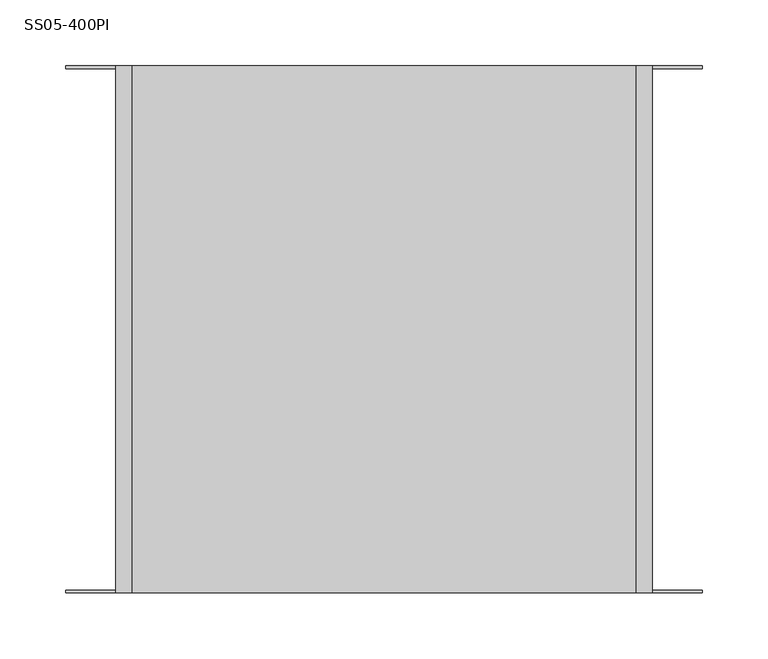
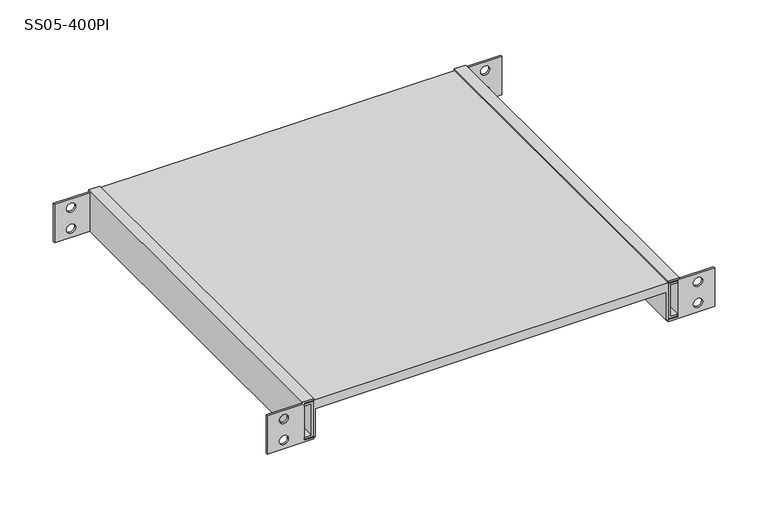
"""IFC4 building model written with IfcOpenShell, lengths in millimetres: proxy geometry, Полки выдвижные : SS05-400PI."""

from ifc_helpers import new_model, si_unit, frame, origin, place, context, project, spatial, polyline, circle_curve, outline, extrude, source, transform, mapped, element, save
from ifc_brep_helpers import plane_surface, revolved_surface, advanced_brep


def ss05_400pi_edb87cb5(model_context):
    return source(origin(), model_context, "Body", "SolidModel", [
        extrude(outline(polyline([(44.0, 191.5), (44.0, -191.5), (2.0, -191.5), (2.0, -189.4739095), (34.0, -189.4739095), (34.0, 189.4778277), (2.0, 189.4778277), (2.0, 191.5), (44.0, 191.5)])), frame((0.0, -200.0, 0.0), z_axis=(0.0, 1.0, 0.0), x_axis=(0.0, 0.0, 1.0)), (0.0, 0.0, 1.0), 400.0),
        extrude(outline(polyline([(2.9820525, -191.8921581), (43.0432121, -191.8921581), (43.0432121, -201.5), (41.0432121, -201.5), (41.0432121, -193.8921581), (4.9820525, -193.8921581), (4.9820525, -201.5), (2.9820525, -201.5), (2.9820525, -191.8921581)])), frame((0.0, -200.0, 0.0), z_axis=(0.0, 1.0, 0.0), x_axis=(0.0, 0.0, 1.0)), (0.0, 0.0, 1.0), 400.0),
        extrude(outline(polyline([(2.9820525, 191.8921581), (2.9820525, 201.5), (4.9820525, 201.5), (4.9820525, 193.8921581), (41.0432121, 193.8921581), (41.0432121, 201.5), (43.0432121, 201.5), (43.0432121, 191.8921581), (2.9820525, 191.8921581)])), frame((0.0, -200.0, 0.0), z_axis=(0.0, 1.0, 0.0), x_axis=(0.0, 0.0, 1.0)), (0.0, 0.0, 1.0), 400.0),
        advanced_brep(
        [(-241.5, 198.0, 44.0), (-203.5, 198.0, 44.0), (-203.5, 200.0, 44.0), (-241.5, 200.0, 44.0), (-203.5, -198.0, 44.0), (-241.5, -198.0, 44.0), (-241.5, -200.0, 44.0), (-203.5, -200.0, 44.0), (-241.5, 198.0, 0.0), (-241.5, 200.0, 0.0), (-191.5, 200.0, 0.0), (-191.5, -200.0, 0.0), (-241.5, -200.0, 0.0), (-241.5, -198.0, 0.0), (-203.5, -198.0, 0.0), (-203.5, 198.0, 0.0), (-218.6086696, 198.0, 34.0), (-228.6086696, 198.0, 34.0), (-218.6086696, 198.0, 10.0), (-228.6086696, 198.0, 10.0), (-203.5, 200.0, 46.0), (-191.5, 200.0, 46.0), (-191.5, 200.0, 44.0), (-201.5, 200.0, 44.0), (-201.5, 200.0, 2.0), (-191.5, 200.0, 2.0), (-228.6086696, 200.0, 34.0), (-218.6086696, 200.0, 34.0), (-228.6086696, 200.0, 10.0), (-218.6086696, 200.0, 10.0), (-228.6086696, -198.0, 34.0), (-218.6086696, -198.0, 34.0), (-228.6086696, -198.0, 10.0), (-218.6086696, -198.0, 10.0), (-191.5, -200.0, 2.0), (-201.5, -200.0, 2.0), (-201.5, -200.0, 44.0), (-191.5, -200.0, 44.0), (-191.5, -200.0, 46.0), (-203.5, -200.0, 46.0), (-218.6086696, -200.0, 34.0), (-228.6086696, -200.0, 34.0), (-218.6086696, -200.0, 10.0), (-228.6086696, -200.0, 10.0)],
        [
            (0, 1),
            (1, 2),
            (2, 3),
            (3, 0),
            (4, 5),
            (5, 6),
            (6, 7),
            (7, 4),
            (8, 9),
            (9, 10),
            (10, 11),
            (11, 12),
            (12, 13),
            (13, 14),
            (14, 15),
            (15, 8),
            (0, 8),
            (15, 1),
            (16, 17, circle_curve(frame((-223.6086696, 198.0, 34.0), z_axis=(0.0, 1.0, 0.0), x_axis=(1.0, 0.0, 0.0)), 5.0)),
            (17, 16, circle_curve(frame((-223.6086696, 198.0, 34.0), z_axis=(0.0, 1.0, 0.0), x_axis=(1.0, 0.0, 0.0)), 5.0)),
            (18, 19, circle_curve(frame((-223.6086696, 198.0, 10.0), z_axis=(0.0, 1.0, 0.0), x_axis=(1.0, 0.0, 0.0)), 5.0)),
            (19, 18, circle_curve(frame((-223.6086696, 198.0, 10.0), z_axis=(0.0, 1.0, 0.0), x_axis=(1.0, 0.0, 0.0)), 5.0)),
            (2, 20),
            (20, 21),
            (21, 22),
            (22, 23),
            (23, 24),
            (24, 25),
            (25, 10),
            (9, 3),
            (26, 27, circle_curve(frame((-223.6086696, 200.0, 34.0), z_axis=(0.0, -1.0, 0.0), x_axis=(1.0, 0.0, 0.0)), 5.0)),
            (27, 26, circle_curve(frame((-223.6086696, 200.0, 34.0), z_axis=(0.0, -1.0, 0.0), x_axis=(1.0, 0.0, 0.0)), 5.0)),
            (28, 29, circle_curve(frame((-223.6086696, 200.0, 10.0), z_axis=(0.0, -1.0, 0.0), x_axis=(1.0, 0.0, 0.0)), 5.0)),
            (29, 28, circle_curve(frame((-223.6086696, 200.0, 10.0), z_axis=(0.0, -1.0, 0.0), x_axis=(1.0, 0.0, 0.0)), 5.0)),
            (4, 14),
            (13, 5),
            (30, 31, circle_curve(frame((-223.6086696, -198.0, 34.0), z_axis=(0.0, -1.0, 0.0), x_axis=(1.0, 0.0, 0.0)), 5.0)),
            (31, 30, circle_curve(frame((-223.6086696, -198.0, 34.0), z_axis=(0.0, -1.0, 0.0), x_axis=(1.0, 0.0, 0.0)), 5.0)),
            (32, 33, circle_curve(frame((-223.6086696, -198.0, 10.0), z_axis=(0.0, -1.0, 0.0), x_axis=(1.0, 0.0, 0.0)), 5.0)),
            (33, 32, circle_curve(frame((-223.6086696, -198.0, 10.0), z_axis=(0.0, -1.0, 0.0), x_axis=(1.0, 0.0, 0.0)), 5.0)),
            (12, 6),
            (11, 34),
            (34, 35),
            (35, 36),
            (36, 37),
            (37, 38),
            (38, 39),
            (39, 7),
            (40, 41, circle_curve(frame((-223.6086696, -200.0, 34.0), z_axis=(0.0, 1.0, 0.0), x_axis=(1.0, 0.0, 0.0)), 5.0)),
            (41, 40, circle_curve(frame((-223.6086696, -200.0, 34.0), z_axis=(0.0, 1.0, 0.0), x_axis=(1.0, 0.0, 0.0)), 5.0)),
            (42, 43, circle_curve(frame((-223.6086696, -200.0, 10.0), z_axis=(0.0, 1.0, 0.0), x_axis=(1.0, 0.0, 0.0)), 5.0)),
            (43, 42, circle_curve(frame((-223.6086696, -200.0, 10.0), z_axis=(0.0, 1.0, 0.0), x_axis=(1.0, 0.0, 0.0)), 5.0)),
            (37, 22),
            (21, 38),
            (20, 39),
            (25, 34),
            (24, 35),
            (23, 36),
            (26, 17),
            (16, 27),
            (30, 41),
            (40, 31),
            (28, 19),
            (18, 29),
            (32, 43),
            (42, 33),
        ],
        [
            plane_surface(frame((-203.5, 198.0, 44.0), z_axis=(0.0, 0.0, 1.0), x_axis=(1.0, 0.0, 0.0))),
            plane_surface(frame((-203.5, 198.0, 0.0), z_axis=(0.0, 0.0, -1.0), x_axis=(-1.0, 0.0, 0.0))),
            plane_surface(frame((-241.5, 198.0, 44.0), z_axis=(0.0, -1.0, 0.0), x_axis=(0.0, 0.0, -1.0))),
            plane_surface(frame((-203.5, 200.0, 44.0), z_axis=(0.0, 1.0, 0.0), x_axis=(0.0, 0.0, -1.0))),
            plane_surface(frame((-241.5, 200.0, 44.0), z_axis=(-1.0, 0.0, 0.0), x_axis=(0.0, 0.0, -1.0))),
            plane_surface(frame((-203.5, -198.0, 44.0), z_axis=(0.0, 1.0, 0.0), x_axis=(0.0, 0.0, -1.0))),
            plane_surface(frame((-241.5, -198.0, 44.0), z_axis=(-1.0, 0.0, 0.0), x_axis=(0.0, 0.0, -1.0))),
            plane_surface(frame((-241.5, -200.0, 44.0), z_axis=(0.0, -1.0, 0.0), x_axis=(0.0, 0.0, -1.0))),
            plane_surface(frame((-191.5, -200.0, 44.0), z_axis=(1.0, 0.0, 0.0), x_axis=(0.0, 1.0, 0.0))),
            plane_surface(frame((-191.5, -200.0, 46.0), z_axis=(0.0, 0.0, 1.0), x_axis=(0.0, 1.0, 0.0))),
            plane_surface(frame((-203.5, -200.0, 46.0), z_axis=(-1.0, 0.0, 0.0), x_axis=(0.0, 1.0, 0.0))),
            plane_surface(frame((-191.5, -200.0, 0.0), z_axis=(1.0, 0.0, 0.0), x_axis=(0.0, 1.0, 0.0))),
            plane_surface(frame((-191.5, -200.0, 2.0), z_axis=(0.0, 0.0, 1.0), x_axis=(0.0, 1.0, 0.0))),
            plane_surface(frame((-201.5, -200.0, 2.0), z_axis=(1.0, 0.0, 0.0), x_axis=(0.0, 1.0, 0.0))),
            plane_surface(frame((-201.5, -200.0, 44.0), z_axis=(0.0, 0.0, -1.0), x_axis=(0.0, 1.0, 0.0))),
            revolved_surface(polyline([(-218.6086696, 198.0, 34.0), (-218.6086696, 200.0, 34.0)]), (-223.6086696, 200.0, 34.0), (0.0, -1.0, 0.0)),
            revolved_surface(polyline([(-218.6086696, -200.0, 34.0), (-218.6086696, -198.0, 34.0)]), (-223.6086696, 200.0, 34.0), (0.0, -1.0, 0.0)),
            revolved_surface(polyline([(-218.6086696, 198.0, 10.0), (-218.6086696, 200.0, 10.0)]), (-223.6086696, 0.0, 10.0), (0.0, -1.0, 0.0)),
            revolved_surface(polyline([(-218.6086696, -200.0, 10.0), (-218.6086696, -198.0, 10.0)]), (-223.6086696, 0.0, 10.0), (0.0, -1.0, 0.0)),
        ],
        [
            (0, [[1, 2, 3, 4]]),
            (0, [[5, 6, 7, 8]]),
            (1, [[9, 10, 11, 12, 13, 14, 15, 16]]),
            (2, [[-1, 17, -16, 18], [19, 20], [21, 22]]),
            (3, [[-3, 23, 24, 25, 26, 27, 28, 29, -10, 30], [31, 32], [33, 34]]),
            (4, [[-4, -30, -9, -17]]),
            (5, [[-5, 35, -14, 36], [37, 38], [39, 40]]),
            (6, [[-6, -36, -13, 41]]),
            (7, [[-7, -41, -12, 42, 43, 44, 45, 46, 47, 48], [49, 50], [51, 52]]),
            (8, [[-46, 53, -25, 54]]),
            (9, [[-47, -54, -24, 55]]),
            (10, [[-55, -23, -2, -18, -15, -35, -8, -48]]),
            (11, [[-42, -11, -29, 56]]),
            (12, [[-43, -56, -28, 57]]),
            (13, [[-44, -57, -27, 58]]),
            (14, [[-45, -58, -26, -53]]),
            (15, [[59, -19, 60, -31]]),
            (16, [[61, -49, 62, -37]]),
            (15, [[-59, -32, -60, -20]]),
            (16, [[-61, -38, -62, -50]]),
            (17, [[63, -21, 64, -33]]),
            (18, [[65, -51, 66, -39]]),
            (17, [[-63, -34, -64, -22]]),
            (18, [[-65, -40, -66, -52]]),
        ],
    ),
        advanced_brep(
        [(241.5, -198.0, 44.0), (203.5, -198.0, 44.0), (203.5, -200.0, 44.0), (241.5, -200.0, 44.0), (241.5, 200.0, 44.0), (203.5, 200.0, 44.0), (203.5, 198.0, 44.0), (241.5, 198.0, 44.0), (241.5, -198.0, 0.0), (241.5, -200.0, 0.0), (191.5, -200.0, 0.0), (191.5, 200.0, 0.0), (241.5, 200.0, 0.0), (241.5, 198.0, 0.0), (203.5, 198.0, 0.0), (203.5, -198.0, 0.0), (191.5, 200.0, 2.0), (201.5, 200.0, 2.0), (201.5, 200.0, 44.0), (191.5, 200.0, 44.0), (191.5, 200.0, 46.0), (203.5, 200.0, 46.0), (218.6086696, 200.0, 34.0), (228.6086696, 200.0, 34.0), (218.6086696, 200.0, 10.0), (228.6086696, 200.0, 10.0), (203.5, -200.0, 46.0), (191.5, -200.0, 46.0), (191.5, -200.0, 44.0), (201.5, -200.0, 44.0), (201.5, -200.0, 2.0), (191.5, -200.0, 2.0), (228.6086696, -200.0, 34.0), (218.6086696, -200.0, 34.0), (228.6086696, -200.0, 10.0), (218.6086696, -200.0, 10.0), (218.6086696, -198.0, 34.0), (228.6086696, -198.0, 34.0), (218.6086696, -198.0, 10.0), (228.6086696, -198.0, 10.0), (228.6086696, 198.0, 34.0), (218.6086696, 198.0, 34.0), (228.6086696, 198.0, 10.0), (218.6086696, 198.0, 10.0)],
        [
            (0, 1),
            (1, 2),
            (2, 3),
            (3, 0),
            (4, 5),
            (5, 6),
            (6, 7),
            (7, 4),
            (8, 9),
            (9, 10),
            (10, 11),
            (11, 12),
            (12, 13),
            (13, 14),
            (14, 15),
            (15, 8),
            (4, 12),
            (11, 16),
            (16, 17),
            (17, 18),
            (18, 19),
            (19, 20),
            (20, 21),
            (21, 5),
            (22, 23, circle_curve(frame((223.6086696, 200.0, 34.0), z_axis=(0.0, -1.0, 0.0), x_axis=(1.0, 0.0, 0.0)), 5.0)),
            (23, 22, circle_curve(frame((223.6086696, 200.0, 34.0), z_axis=(0.0, -1.0, 0.0), x_axis=(1.0, 0.0, 0.0)), 5.0)),
            (24, 25, circle_curve(frame((223.6086696, 200.0, 10.0), z_axis=(0.0, -1.0, 0.0), x_axis=(1.0, 0.0, 0.0)), 5.0)),
            (25, 24, circle_curve(frame((223.6086696, 200.0, 10.0), z_axis=(0.0, -1.0, 0.0), x_axis=(1.0, 0.0, 0.0)), 5.0)),
            (2, 26),
            (26, 27),
            (27, 28),
            (28, 29),
            (29, 30),
            (30, 31),
            (31, 10),
            (9, 3),
            (32, 33, circle_curve(frame((223.6086696, -200.0, 34.0), z_axis=(0.0, 1.0, 0.0), x_axis=(1.0, 0.0, 0.0)), 5.0)),
            (33, 32, circle_curve(frame((223.6086696, -200.0, 34.0), z_axis=(0.0, 1.0, 0.0), x_axis=(1.0, 0.0, 0.0)), 5.0)),
            (34, 35, circle_curve(frame((223.6086696, -200.0, 10.0), z_axis=(0.0, 1.0, 0.0), x_axis=(1.0, 0.0, 0.0)), 5.0)),
            (35, 34, circle_curve(frame((223.6086696, -200.0, 10.0), z_axis=(0.0, 1.0, 0.0), x_axis=(1.0, 0.0, 0.0)), 5.0)),
            (0, 8),
            (15, 1),
            (36, 37, circle_curve(frame((223.6086696, -198.0, 34.0), z_axis=(0.0, -1.0, 0.0), x_axis=(1.0, 0.0, 0.0)), 5.0)),
            (37, 36, circle_curve(frame((223.6086696, -198.0, 34.0), z_axis=(0.0, -1.0, 0.0), x_axis=(1.0, 0.0, 0.0)), 5.0)),
            (38, 39, circle_curve(frame((223.6086696, -198.0, 10.0), z_axis=(0.0, -1.0, 0.0), x_axis=(1.0, 0.0, 0.0)), 5.0)),
            (39, 38, circle_curve(frame((223.6086696, -198.0, 10.0), z_axis=(0.0, -1.0, 0.0), x_axis=(1.0, 0.0, 0.0)), 5.0)),
            (6, 14),
            (13, 7),
            (40, 41, circle_curve(frame((223.6086696, 198.0, 34.0), z_axis=(0.0, 1.0, 0.0), x_axis=(1.0, 0.0, 0.0)), 5.0)),
            (41, 40, circle_curve(frame((223.6086696, 198.0, 34.0), z_axis=(0.0, 1.0, 0.0), x_axis=(1.0, 0.0, 0.0)), 5.0)),
            (42, 43, circle_curve(frame((223.6086696, 198.0, 10.0), z_axis=(0.0, 1.0, 0.0), x_axis=(1.0, 0.0, 0.0)), 5.0)),
            (43, 42, circle_curve(frame((223.6086696, 198.0, 10.0), z_axis=(0.0, 1.0, 0.0), x_axis=(1.0, 0.0, 0.0)), 5.0)),
            (28, 19),
            (18, 29),
            (17, 30),
            (16, 31),
            (21, 26),
            (20, 27),
            (36, 33),
            (32, 37),
            (22, 41),
            (40, 23),
            (38, 35),
            (34, 39),
            (24, 43),
            (42, 25),
        ],
        [
            plane_surface(frame((-203.5, 198.0, 44.0), z_axis=(0.0, 0.0, 1.0), x_axis=(1.0, 0.0, 0.0))),
            plane_surface(frame((-203.5, 198.0, 0.0), z_axis=(0.0, 0.0, -1.0), x_axis=(-1.0, 0.0, 0.0))),
            plane_surface(frame((-203.5, 200.0, 44.0), z_axis=(0.0, 1.0, 0.0), x_axis=(0.0, 0.0, -1.0))),
            plane_surface(frame((-241.5, -200.0, 44.0), z_axis=(0.0, -1.0, 0.0), x_axis=(0.0, 0.0, -1.0))),
            plane_surface(frame((241.5, -198.0, 44.0), z_axis=(0.0, 1.0, 0.0), x_axis=(0.0, 0.0, -1.0))),
            plane_surface(frame((241.5, -200.0, 44.0), z_axis=(1.0, 0.0, 0.0), x_axis=(0.0, 0.0, -1.0))),
            plane_surface(frame((203.5, 198.0, 44.0), z_axis=(0.0, -1.0, 0.0), x_axis=(0.0, 0.0, -1.0))),
            plane_surface(frame((241.5, 198.0, 44.0), z_axis=(1.0, 0.0, 0.0), x_axis=(0.0, 0.0, -1.0))),
            plane_surface(frame((191.5, -200.0, 44.0), z_axis=(0.0, 0.0, -1.0), x_axis=(0.0, 1.0, 0.0))),
            plane_surface(frame((201.5, -200.0, 44.0), z_axis=(-1.0, 0.0, 0.0), x_axis=(0.0, 1.0, 0.0))),
            plane_surface(frame((201.5, -200.0, 2.0), z_axis=(0.0, 0.0, 1.0), x_axis=(0.0, 1.0, 0.0))),
            plane_surface(frame((191.5, -200.0, 2.0), z_axis=(-1.0, 0.0, 0.0), x_axis=(0.0, 1.0, 0.0))),
            plane_surface(frame((203.5, -200.0, 0.0), z_axis=(1.0, 0.0, 0.0), x_axis=(0.0, 1.0, 0.0))),
            plane_surface(frame((203.5, -200.0, 46.0), z_axis=(0.0, 0.0, 1.0), x_axis=(0.0, 1.0, 0.0))),
            plane_surface(frame((191.5, -200.0, 46.0), z_axis=(-1.0, 0.0, 0.0), x_axis=(0.0, 1.0, 0.0))),
            revolved_surface(polyline([(228.6086696, -200.0, 34.0), (228.6086696, -198.0, 34.0)]), (223.6086696, 0.0, 34.0), (0.0, -1.0, 0.0)),
            revolved_surface(polyline([(228.6086696, 198.0, 34.0), (228.6086696, 200.0, 34.0)]), (223.6086696, 0.0, 34.0), (0.0, -1.0, 0.0)),
            revolved_surface(polyline([(228.6086696, -200.0, 10.0), (228.6086696, -198.0, 10.0)]), (223.6086696, 0.0, 10.0), (0.0, -1.0, 0.0)),
            revolved_surface(polyline([(228.6086696, 198.0, 10.0), (228.6086696, 200.0, 10.0)]), (223.6086696, 0.0, 10.0), (0.0, -1.0, 0.0)),
        ],
        [
            (0, [[1, 2, 3, 4]]),
            (0, [[5, 6, 7, 8]]),
            (1, [[9, 10, 11, 12, 13, 14, 15, 16]]),
            (2, [[-5, 17, -12, 18, 19, 20, 21, 22, 23, 24], [25, 26], [27, 28]]),
            (3, [[-3, 29, 30, 31, 32, 33, 34, 35, -10, 36], [37, 38], [39, 40]]),
            (4, [[-1, 41, -16, 42], [43, 44], [45, 46]]),
            (5, [[-4, -36, -9, -41]]),
            (6, [[-7, 47, -14, 48], [49, 50], [51, 52]]),
            (7, [[-8, -48, -13, -17]]),
            (8, [[-32, 53, -21, 54]]),
            (9, [[-33, -54, -20, 55]]),
            (10, [[-34, -55, -19, 56]]),
            (11, [[-35, -56, -18, -11]]),
            (12, [[57, -29, -2, -42, -15, -47, -6, -24]]),
            (13, [[-30, -57, -23, 58]]),
            (14, [[-31, -58, -22, -53]]),
            (15, [[59, -37, 60, -43]]),
            (16, [[61, -49, 62, -25]]),
            (15, [[-59, -44, -60, -38]]),
            (16, [[-61, -26, -62, -50]]),
            (17, [[63, -39, 64, -45]]),
            (18, [[65, -51, 66, -27]]),
            (17, [[-63, -46, -64, -40]]),
            (18, [[-65, -28, -66, -52]]),
        ],
    ),
    ])


if __name__ == "__main__":
    model = new_model("IFC4")
    model_context = context("Model", 3, world=origin())
    ifc_project = project(units=[si_unit("LENGTHUNIT", "METRE", prefix="MILLI")], contexts=[model_context])
    site = spatial("IfcSite", under=ifc_project)
    building = spatial("IfcBuilding", under=site)
    placement = place(None, origin())
    ss05_400pi_shape = ss05_400pi_edb87cb5(model_context)
    element("IfcBuildingElementProxy", 1, Name="Полки выдвижные : SS05-400PI", ObjectType="Полки выдвижные : SS05-400PI", at=placement, inside=building, context=model_context, shape_type="MappedRepresentation", body=[
        mapped(ss05_400pi_shape, transform((0.0, 0.0, 0.0), x_axis=(1.0, 0.0, 0.0), y_axis=(0.0, 1.0, 0.0), z_axis=(0.0, 0.0, 1.0))),
    ])
    save(model, "model.ifc")
